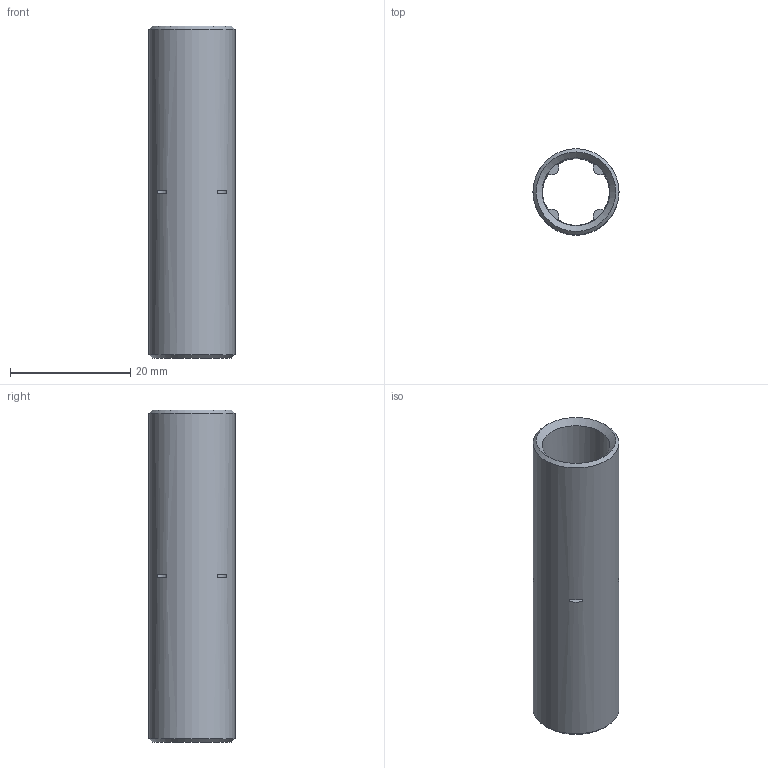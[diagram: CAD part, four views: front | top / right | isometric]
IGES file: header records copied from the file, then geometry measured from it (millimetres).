
Global section: file name: No Iges File Name specified; native system: Autodesk Inventor 2012; preprocessor: AutoDesk Inventor Iges Exporter R2012; author: rshanmugam; date: 20130918.120052; units: inch
Bounding box: 14.3 x 14.3 x 55.17 mm (x, y, z)
Volume: 3325.8 mm3; surface area: 4518.1 mm2
Topology: 1 solids, 1 shells, 30 faces, 60 edges, 38 vertices
Faces by surface type: plane 16, revolution 7, cylinder 5, cone 2
Full cylindrical faces by diameter (mm): 14.3 x1
